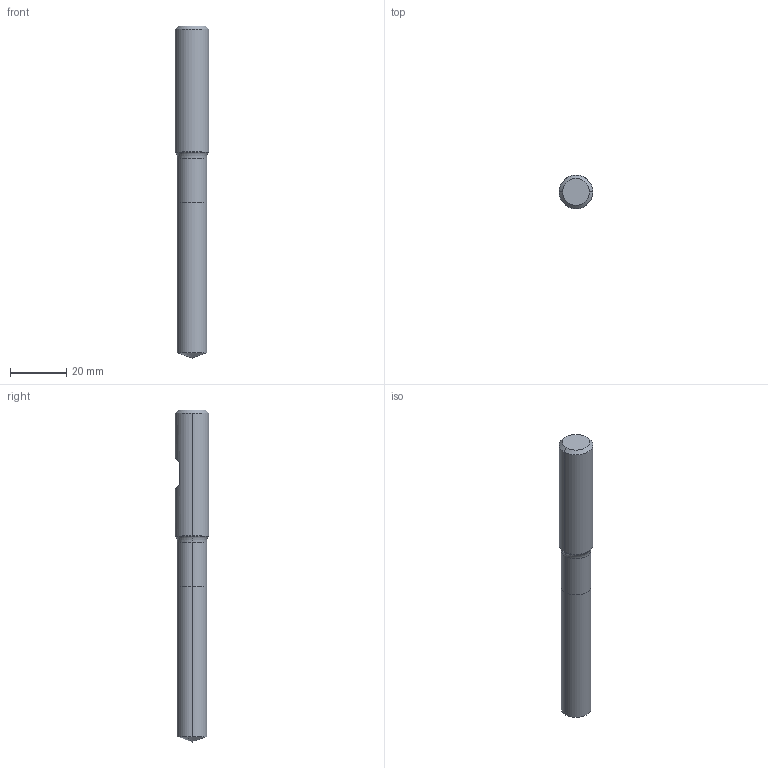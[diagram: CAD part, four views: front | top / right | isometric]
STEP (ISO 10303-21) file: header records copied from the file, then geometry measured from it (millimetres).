
FILE_DESCRIPTION (( 'STEP AP214' ), '1' );
FILE_NAME ('905.105.10_3D-model.step', '2022-02-24T18:42:29', ( '' ), ( '' ), 'SwSTEP 2.0', 'SolidWorks 2020', '' );
FILE_SCHEMA (( 'AUTOMOTIVE_DESIGN' ));
Length unit declared in the file: millimetre
Products named in the file (3): 905.105.10_3D-model; CUT-3D^Baugr8; NOCUT-3D^Baugr8
Assembly tree (2 placements, depth 2):
  905.105.10_3D-model
    CUT-3D^Baugr8
    NOCUT-3D^Baugr8
Bounding box: 12 x 12 x 118 mm (x, y, z)
Volume: 11201.9 mm3; surface area: 4398.8 mm2
Topology: 2 solids, 2 shells, 20 faces, 38 edges, 21 vertices
Faces by surface type: cone 6, cylinder 6, plane 6, torus 2
Entity records: 608 total; most frequent: DIRECTION 108, CARTESIAN_POINT 91, ORIENTED_EDGE 72, AXIS2_PLACEMENT_3D 46, EDGE_CURVE 36, VERTEX_POINT 21, EDGE_LOOP 21, ADVANCED_FACE 20
